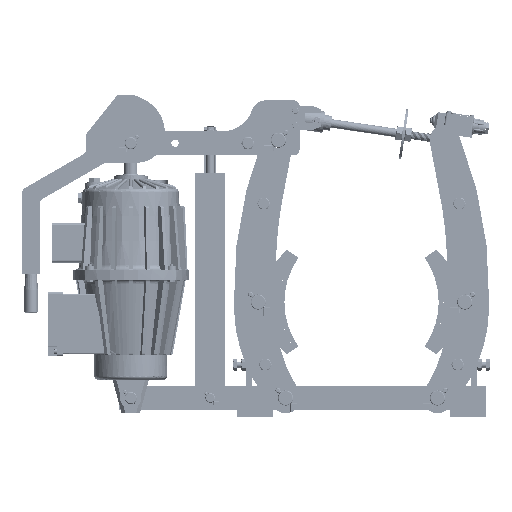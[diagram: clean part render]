
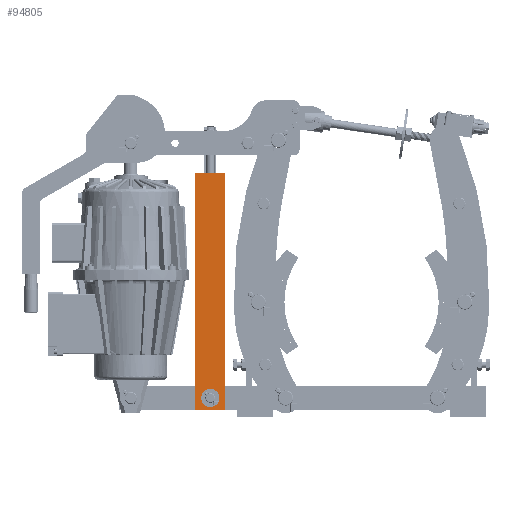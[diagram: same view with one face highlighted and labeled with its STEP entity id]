
A CAD part, left-side view. The second image highlights one B-rep face of the part: STEP entity #94805.
In plain terms, the highlighted planar face has unit normal (1, 0, 0).
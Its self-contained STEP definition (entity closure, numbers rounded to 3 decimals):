
#94754=DIRECTION('',(0.,0.,1.));
#94755=VECTOR('',#94754,390.);
#94756=CARTESIAN_POINT('',(-80.,429.,12.));
#94757=LINE('',#94756,#94755);
#94761=DIRECTION('',(0.,1.,0.));
#94762=VECTOR('',#94761,50.);
#94763=CARTESIAN_POINT('',(-80.,429.,402.));
#94764=LINE('',#94763,#94762);
#94768=DIRECTION('',(0.,0.,-1.));
#94769=VECTOR('',#94768,390.);
#94770=CARTESIAN_POINT('',(-80.,479.,402.));
#94771=LINE('',#94770,#94769);
#94775=DIRECTION('',(0.,-1.,0.));
#94776=VECTOR('',#94775,50.);
#94777=CARTESIAN_POINT('',(-80.,479.,12.));
#94778=LINE('',#94777,#94776);
#94782=CARTESIAN_POINT('',(-80.,429.,12.));
#94783=CARTESIAN_POINT('',(-80.,429.,402.));
#94784=VERTEX_POINT('',#94782);
#94785=VERTEX_POINT('',#94783);
#94786=CARTESIAN_POINT('',(-80.,479.,402.));
#94787=VERTEX_POINT('',#94786);
#94788=CARTESIAN_POINT('',(-80.,479.,12.));
#94789=VERTEX_POINT('',#94788);
#94790=CARTESIAN_POINT('',(-80.,454.,207.));
#94791=DIRECTION('',(1.,0.,0.));
#94792=DIRECTION('',(0.,1.,0.));
#94793=AXIS2_PLACEMENT_3D('',#94790,#94791,#94792);
#94794=PLANE('',#94793);
#94796=ORIENTED_EDGE('',*,*,#94795,.T.);
#94798=ORIENTED_EDGE('',*,*,#94797,.T.);
#94800=ORIENTED_EDGE('',*,*,#94799,.T.);
#94802=ORIENTED_EDGE('',*,*,#94801,.T.);
#94803=EDGE_LOOP('',(#94796,#94798,#94800,#94802));
#94804=FACE_OUTER_BOUND('',#94803,.F.);
#94805=ADVANCED_FACE('',(#94804),#94794,.T.);
#94795=EDGE_CURVE('',#94784,#94785,#94757,.T.);
#94797=EDGE_CURVE('',#94785,#94787,#94764,.T.);
#94799=EDGE_CURVE('',#94787,#94789,#94771,.T.);
#94801=EDGE_CURVE('',#94789,#94784,#94778,.T.);
